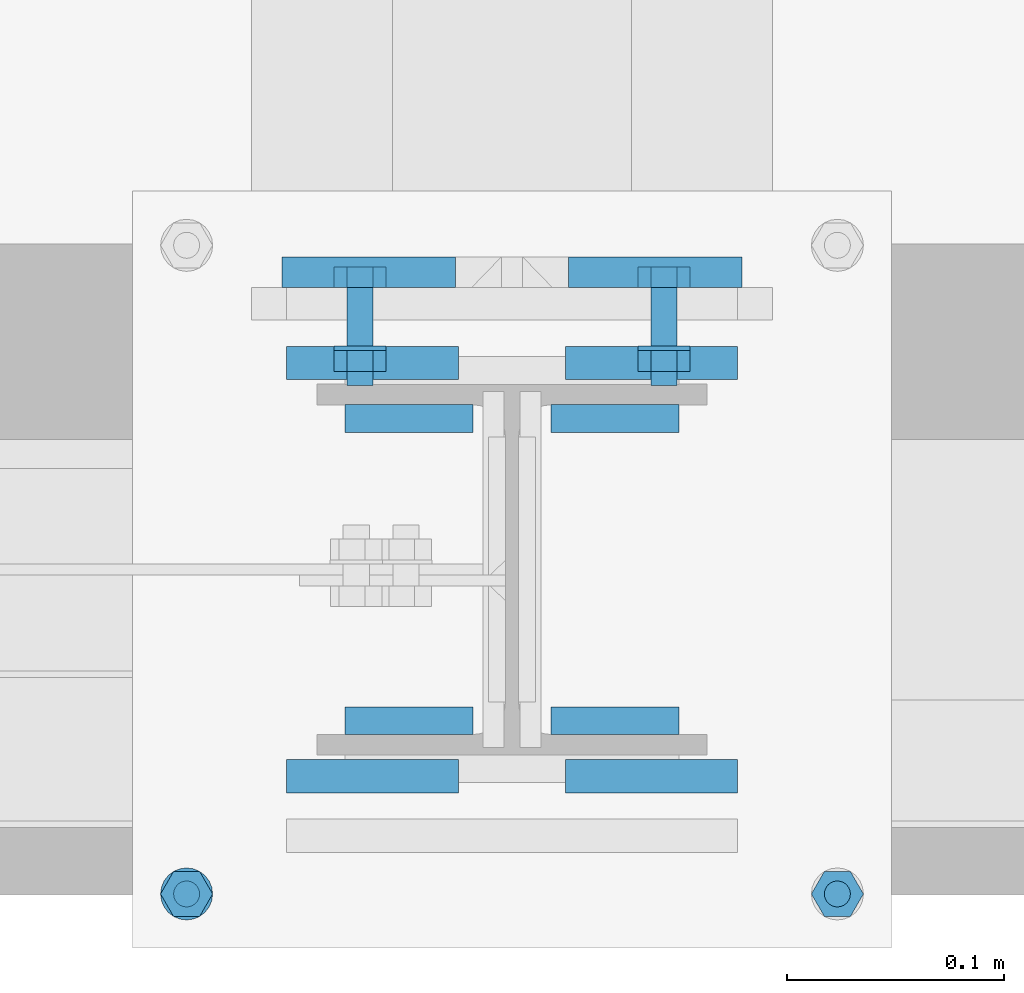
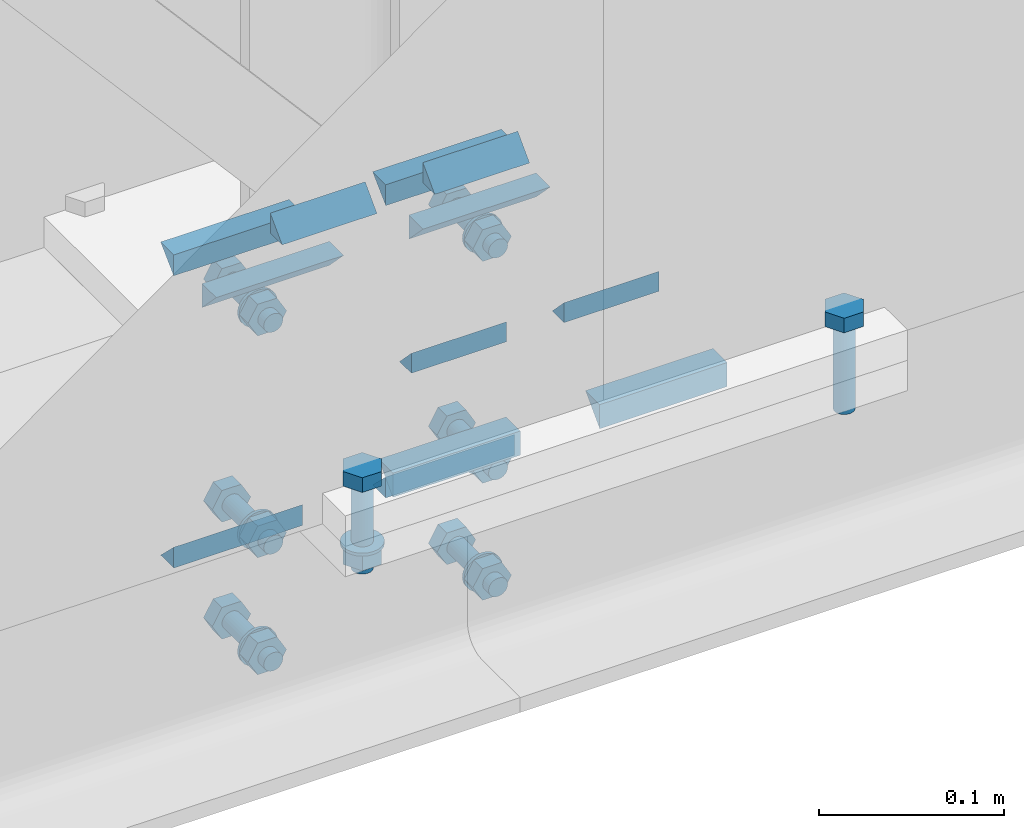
# One storey, part 29 of 66: 30 mechanical fasteners, 20 fasteners.
"""IFC4 building model written with IfcOpenShell, lengths in metres."""

import ifcopenshell
import ifcopenshell.guid

model = None  # the IFC model being written
_history = None  # IfcOwnerHistory: only IFC2X3 demands one
_inside = {}  # id of a spatial element -> (the spatial element, [elements in it])
_under = {}  # id of a project, library or spatial element -> (it, [spatial elements below it])
_declared = {}  # id of a project -> (the project, [libraries it declares])
_typed = {}  # id of a type object -> (the type object, [elements of that type])
_made_of = {}  # id of a material, layer set ... -> (it, [elements and type objects made of it])


def new_model(schema):
    """Start an empty IFC model of exactly this schema.

    Asked for "IFC4X3", IfcOpenShell would pick the latest addendum, in which some entities
    have other attributes; the version numbers below select the first issue.
    IFC2X3 requires an IfcOwnerHistory on every rooted entity: one is made here for all.
    """
    global model, _history
    if schema == "IFC4X3":
        model = ifcopenshell.file(schema_version=(4, 3, 0, 0))
    else:
        model = ifcopenshell.file(schema=schema)
    _inside.clear()
    _under.clear()
    _declared.clear()
    _typed.clear()
    _made_of.clear()
    _history = None
    if model.schema == "IFC2X3":
        org = make("IfcOrganization", Name="unknown")
        user = make(
            "IfcPersonAndOrganization",
            ThePerson=make("IfcPerson", FamilyName="unknown"),
            TheOrganization=org,
        )
        app = make(
            "IfcApplication",
            ApplicationDeveloper=org,
            Version="unknown",
            ApplicationFullName="unknown",
            ApplicationIdentifier="unknown",
        )
        _history = make(
            "IfcOwnerHistory",
            OwningUser=user,
            OwningApplication=app,
            ChangeAction="ADDED",
            CreationDate=0,
        )
    return model


def make(cls, **values):
    """One entity of the class cls with the attributes given. An attribute that is None is left unset."""
    return model.create_entity(
        cls, **{name: value for name, value in values.items() if value is not None}
    )


def rooted(cls, **values):
    """An entity with a GlobalId (a new one), such as an element, a storey or a relation."""
    return make(cls, GlobalId=ifcopenshell.guid.new(), OwnerHistory=_history, **values)


def si_unit(unit_type, name, prefix=None):
    """IfcSIUnit, for example si_unit("LENGTHUNIT", "METRE", prefix="MILLI")."""
    return make("IfcSIUnit", UnitType=unit_type, Prefix=prefix, Name=name)


def assignment(units):
    """IfcUnitAssignment: the units of a project."""
    return None if units is None else make("IfcUnitAssignment", Units=units)


def point(xyz):
    """IfcCartesianPoint."""
    return None if xyz is None else make("IfcCartesianPoint", Coordinates=xyz)


def direction(xyz):
    """IfcDirection."""
    return None if xyz is None else make("IfcDirection", DirectionRatios=xyz)


def frame(location, z_axis=None, x_axis=None):
    """IfcAxis2Placement3D, a coordinate frame: its origin and axes. An axis left out is left unset."""
    return make(
        "IfcAxis2Placement3D",
        Location=point(location),
        Axis=direction(z_axis),
        RefDirection=direction(x_axis),
    )


def origin_with_axes():
    """The frame at (0, 0, 0) with the z axis (0, 0, 1) and the x axis (1, 0, 0) written out."""
    return frame((0.0, 0.0, 0.0), z_axis=(0.0, 0.0, 1.0), x_axis=(1.0, 0.0, 0.0))


def place(relative_to, where):
    """IfcLocalPlacement: puts the frame where relative to a parent placement (None: the world)."""
    return make(
        "IfcLocalPlacement", PlacementRelTo=relative_to, RelativePlacement=where
    )


def context(
    kind, dimensions, precision=None, world=None, true_north=None, identifier=None
):
    """IfcGeometricRepresentationContext, for example the 3D "Model" context."""
    return make(
        "IfcGeometricRepresentationContext",
        ContextIdentifier=identifier,
        ContextType=kind,
        CoordinateSpaceDimension=dimensions,
        Precision=precision,
        WorldCoordinateSystem=world,
        TrueNorth=true_north,
    )


def project(units=None, contexts=None):
    """IfcProject with its units and contexts."""
    return rooted(
        "IfcProject",
        Name="project",
        RepresentationContexts=contexts,
        UnitsInContext=assignment(units),
    )


def spatial(cls, under=None, at=None, **own):
    """A site, building, storey or space (cls), placed at a placement, below another one or the project."""
    s = rooted(cls, ObjectPlacement=at, **own)
    if under is not None:
        _under.setdefault(under.id(), (under, []))[1].append(s)
    return s


def polyline(points):
    """IfcPolyline through the points."""
    return make("IfcPolyline", Points=[point(p) for p in points])


def outline(outer, holes=None, kind="AREA"):
    """IfcArbitraryClosedProfileDef: a profile drawn as a closed curve; with holes, ...WithVoids."""
    if holes is None:
        return make("IfcArbitraryClosedProfileDef", ProfileType=kind, OuterCurve=outer)
    return make(
        "IfcArbitraryProfileDefWithVoids",
        ProfileType=kind,
        OuterCurve=outer,
        InnerCurves=holes,
    )


def extrude(swept, where, along, depth):
    """IfcExtrudedAreaSolid: the profile swept, set in the frame where, extruded along a direction by depth."""
    return make(
        "IfcExtrudedAreaSolid",
        SweptArea=swept,
        Position=where,
        ExtrudedDirection=direction(along),
        Depth=depth,
    )


def shape(context_of_items, identifier, shape_type, items):
    """IfcShapeRepresentation: the items that make up one representation, for example the "Body"."""
    return make(
        "IfcShapeRepresentation",
        ContextOfItems=context_of_items,
        RepresentationIdentifier=identifier,
        RepresentationType=shape_type,
        Items=items,
    )


def made_of(thing, what):
    """Note that an element or type object is made of a material, layer set ...; save() writes the relation."""
    if what is not None:
        _made_of.setdefault(what.id(), (what, []))[1].append(thing)
    return thing


def type_object(cls, material=None, **own):
    """A type object (cls), such as IfcWallType, which elements share."""
    return made_of(rooted(cls, **own), material)


def element(
    cls,
    number,
    at=None,
    inside=None,
    cuts=None,
    type_object=None,
    material=None,
    context=None,
    identifier="Body",
    shape_type=None,
    held_by="IfcProductDefinitionShape",
    body=None,
    shapes=None,
    **own,
):
    """One element of the class cls, such as IfcWall. Its Tag is "e" and its number.

    at: its placement. inside: the storey or other place that contains it. cuts: it is an
    opening in that element (IfcRelVoidsElement). A single representation is given by context,
    identifier, shape_type and body (its items); several are given by shapes. held_by: the class
    of the entity that holds the representations. save() writes the other relations.
    """
    e = rooted(cls, Tag="e%d" % number, ObjectPlacement=at, **own)
    if body is not None:
        shapes = [shape(context, identifier, shape_type, body)]
    if shapes is not None:
        e.Representation = make(held_by, Representations=shapes)
    if inside is not None:
        _inside.setdefault(inside.id(), (inside, []))[1].append(e)
    if cuts is not None:
        rooted(
            "IfcRelVoidsElement", RelatingBuildingElement=cuts, RelatedOpeningElement=e
        )
    if type_object is not None:
        _typed.setdefault(type_object.id(), (type_object, []))[1].append(e)
    return made_of(e, material)


def aggregate(whole, parts):
    """IfcRelAggregates: a whole, such as a stair, and the parts it consists of."""
    return rooted("IfcRelAggregates", RelatingObject=whole, RelatedObjects=parts)


def save(model, path):
    """Write the relations noted so far, then the file.

    IfcRelAggregates (storeys below a building ...), IfcRelContainedInSpatialStructure (elements
    in a storey), IfcRelDefinesByType, IfcRelAssociatesMaterial and IfcRelDeclares: one each for
    every whole, place, type object, material and project.
    """
    for whole, parts in _under.values():
        aggregate(whole, parts)
    for where, things in _inside.values():
        rooted(
            "IfcRelContainedInSpatialStructure",
            RelatedElements=things,
            RelatingStructure=where,
        )
    for kind, things in _typed.values():
        rooted("IfcRelDefinesByType", RelatedObjects=things, RelatingType=kind)
    for what, things in _made_of.values():
        rooted("IfcRelAssociatesMaterial", RelatedObjects=things, RelatingMaterial=what)
    for by, libraries in _declared.values():
        rooted("IfcRelDeclares", RelatingContext=by, RelatedDefinitions=libraries)
    model.write(path)


model = new_model("IFC4")

# Units and contexts
model_context = context("Model", 3, precision=1e-05, world=origin_with_axes())
ifc_project = project(units=[si_unit("LENGTHUNIT", "METRE"), si_unit("AREAUNIT", "SQUARE_METRE"), si_unit("VOLUMEUNIT", "CUBIC_METRE"), si_unit("MASSUNIT", "GRAM", prefix="KILO"), si_unit("TIMEUNIT", "SECOND"), si_unit("PLANEANGLEUNIT", "RADIAN"), si_unit("SOLIDANGLEUNIT", "STERADIAN"), si_unit("THERMODYNAMICTEMPERATUREUNIT", "DEGREE_CELSIUS")], contexts=[model_context])

# Site, building, storey
placement_1 = place(None, origin_with_axes())
site = spatial("IfcSite", under=ifc_project, at=placement_1, Name="Italia", CompositionType="ELEMENT")
building = spatial("IfcBuilding", under=site, at=placement_1, Name="Uffici", CompositionType="ELEMENT")
storey_placement = place(None, frame((0.0, 0.0, 3.299999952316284), z_axis=(0.0, 0.0, 1.0), x_axis=(1.0, 0.0, 0.0)))
storey = spatial("IfcBuildingStorey", under=building, at=storey_placement, Name="Storey 1", CompositionType="ELEMENT", Elevation=3.299999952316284)

# Fasteners
fastener_type_1 = type_object("IfcFastenerType", Name="Collegamenti 0101_-001 0102_-002 0103_-003 0104_-004", PredefinedType="WELD")
placement_2 = place(placement_1, origin_with_axes())
fastener_1_placement = place(placement_2, origin_with_axes())
element("IfcFastener", 1, at=fastener_1_placement, inside=storey, type_object=fastener_type_1, Name="Collegamenti 0101_-001 0102_-002 0103_-003 0104_-004", context=model_context, shape_type="SweptSolid", body=[
    extrude(outline(polyline([(0.0, 0.0), (-0.0141734, 0.0137482), (0.0, 0.0137482), (0.0, 0.0)])), frame((3.17905, 0.12995, 3.2693), z_axis=(-1.0, 0.0, 0.0), x_axis=(0.0, -1.0, 0.0)), (0.0, 0.0, 1.0), 0.0801001),
])
fastener_type_2 = type_object("IfcFastenerType", Name="Collegamenti 0101_-001 0102_-002 0103_-003 0104_-004", PredefinedType="WELD")
fastener_2_placement = place(placement_2, origin_with_axes())
element("IfcFastener", 2, at=fastener_2_placement, inside=storey, type_object=fastener_type_2, Name="Collegamenti 0101_-001 0102_-002 0103_-003 0104_-004", context=model_context, shape_type="SweptSolid", body=[
    extrude(outline(polyline([(0.0, 0.0), (0.0141734, -0.0137482), (0.0, -0.0137482), (0.0, 0.0)])), frame((3.09895, 0.12995, 3.0907), z_axis=(1.0, 0.0, 0.0), x_axis=(0.0, 1.0, 0.0)), (0.0, 0.0, 1.0), 0.0801001),
])
fastener_type_3 = type_object("IfcFastenerType", Name="Collegamenti 0101_-001 0102_-002 0103_-003 0104_-004", PredefinedType="WELD")
fastener_3_placement = place(placement_2, origin_with_axes())
element("IfcFastener", 3, at=fastener_3_placement, inside=storey, type_object=fastener_type_3, Name="Collegamenti 0101_-001 0102_-002 0103_-003 0104_-004", context=model_context, shape_type="SweptSolid", body=[
    extrude(outline(polyline([(0.0, 0.0), (0.0141734, -0.0137482), (0.0, -0.0137482), (0.0, 0.0)])), frame((3.23095, 0.12995, 3.0907), z_axis=(1.0, 0.0, 0.0), x_axis=(0.0, 1.0, 0.0)), (0.0, 0.0, 1.0), 0.0801001),
])
fastener_type_4 = type_object("IfcFastenerType", Name="Collegamenti 0101_-001 0102_-002 0103_-003 0104_-004", PredefinedType="WELD")
fastener_4_placement = place(placement_2, origin_with_axes())
element("IfcFastener", 4, at=fastener_4_placement, inside=storey, type_object=fastener_type_4, Name="Collegamenti 0101_-001 0102_-002 0103_-003 0104_-004", context=model_context, shape_type="SweptSolid", body=[
    extrude(outline(polyline([(0.0, 0.0), (-0.0141733, 0.0137482), (0.0, 0.0137482), (0.0, 0.0)])), frame((3.31105, 0.12995, 3.2693), z_axis=(-1.0, 0.0, 0.0), x_axis=(0.0, -1.0, 0.0)), (0.0, 0.0, 1.0), 0.0801001),
])
fastener_type_5 = type_object("IfcFastenerType", Name="Collegamenti 0101_-001 0102_-002 0103_-003 0104_-004", PredefinedType="WELD")
fastener_5_placement = place(placement_2, origin_with_axes())
element("IfcFastener", 5, at=fastener_5_placement, inside=storey, type_object=fastener_type_5, Name="Collegamenti 0101_-001 0102_-002 0103_-003 0104_-004", context=model_context, shape_type="SweptSolid", body=[
    extrude(outline(polyline([(0.0, 0.0), (-0.0141734, 0.0137482), (0.0, 0.0137482), (0.0, 0.0)])), frame((3.17905, 0.12995, 3.2693), z_axis=(-1.0, 0.0, 0.0), x_axis=(0.0, -1.0, 0.0)), (0.0, 0.0, 1.0), 0.0801001),
])
fastener_type_6 = type_object("IfcFastenerType", Name="Collegamenti 0101_-001 0102_-002 0103_-003 0104_-004", PredefinedType="WELD")
fastener_6_placement = place(placement_2, origin_with_axes())
element("IfcFastener", 6, at=fastener_6_placement, inside=storey, type_object=fastener_type_6, Name="Collegamenti 0101_-001 0102_-002 0103_-003 0104_-004", context=model_context, shape_type="SweptSolid", body=[
    extrude(outline(polyline([(0.0, 0.0), (0.0141734, -0.0137482), (0.0, -0.0137482), (0.0, 0.0)])), frame((3.09895, 0.12995, 3.0907), z_axis=(1.0, 0.0, 0.0), x_axis=(0.0, 1.0, 0.0)), (0.0, 0.0, 1.0), 0.0801001),
])
fastener_type_7 = type_object("IfcFastenerType", Name="Collegamenti 0101_-001 0102_-002 0103_-003 0104_-004", PredefinedType="WELD")
fastener_7_placement = place(placement_2, origin_with_axes())
element("IfcFastener", 7, at=fastener_7_placement, inside=storey, type_object=fastener_type_7, Name="Collegamenti 0101_-001 0102_-002 0103_-003 0104_-004", context=model_context, shape_type="SweptSolid", body=[
    extrude(outline(polyline([(0.0, 0.0), (0.0141734, -0.0137482), (0.0, -0.0137482), (0.0, 0.0)])), frame((3.23095, 0.12995, 3.0907), z_axis=(1.0, 0.0, 0.0), x_axis=(0.0, 1.0, 0.0)), (0.0, 0.0, 1.0), 0.0801001),
])
fastener_type_8 = type_object("IfcFastenerType", Name="Collegamenti 0101_-001 0102_-002 0103_-003 0104_-004", PredefinedType="WELD")
fastener_8_placement = place(placement_2, origin_with_axes())
element("IfcFastener", 8, at=fastener_8_placement, inside=storey, type_object=fastener_type_8, Name="Collegamenti 0101_-001 0102_-002 0103_-003 0104_-004", context=model_context, shape_type="SweptSolid", body=[
    extrude(outline(polyline([(0.0, 0.0), (-0.0141733, 0.0137482), (0.0, 0.0137482), (0.0, 0.0)])), frame((3.31105, 0.12995, 3.2693), z_axis=(-1.0, 0.0, 0.0), x_axis=(0.0, -1.0, 0.0)), (0.0, 0.0, 1.0), 0.0801001),
])

# Mechanical fasteners
mechanical_fastener_type_1 = type_object("IfcMechanicalFastenerType", Name="Collegamenti 0101_-001 0102_-002 0103_-003 0104_-004", PredefinedType="BOLT")
mechanical_fastener_1_placement = place(placement_2, origin_with_axes())
element("IfcMechanicalFastener", 9, at=mechanical_fastener_1_placement, inside=storey, type_object=mechanical_fastener_type_1, Name="Collegamenti 0101_-001 0102_-002 0103_-003 0104_-004", NominalDiameter=0.0119998, context=model_context, shape_type="SweptSolid", body=[
    extrude(outline(polyline([(0.0, 0.0), (-0.0120001, 0.0), (-0.0180001, 0.0103924), (-0.0120001, 0.0207846), (0.0, 0.0207846), (0.0059998, 0.0103924), (0.0, 0.0)])), frame((3.269, 0.13, 3.09661), z_axis=(0.0, 1.0, 0.0), x_axis=(-1.0, 0.0, 0.0)), (0.0, 0.0, 1.0), 0.0096),
])
mechanical_fastener_type_2 = type_object("IfcMechanicalFastenerType", Name="Collegamenti 0101_-001 0102_-002 0103_-003 0104_-004", PredefinedType="BOLT")
mechanical_fastener_2_placement = place(placement_2, origin_with_axes())
element("IfcMechanicalFastener", 10, at=mechanical_fastener_2_placement, inside=storey, type_object=mechanical_fastener_type_2, Name="Collegamenti 0101_-001 0102_-002 0103_-003 0104_-004", NominalDiameter=0.012, context=model_context, shape_type="SweptSolid", body=[
    extrude(outline(polyline([(0.0, 0.0), (-0.000204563, -0.00155282), (-0.000803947, -0.00300002), (-0.00175738, -0.00424266), (-0.00300002, -0.00519609), (-0.00444722, -0.00579548), (-0.00600004, -0.00600004), (-0.00755286, -0.00579548), (-0.00900006, -0.00519609), (-0.0102427, -0.00424266), (-0.0111961, -0.00300002), (-0.0117955, -0.00155282), (-0.0120001, 0.0), (-0.0117955, 0.00155282), (-0.0111961, 0.00300002), (-0.0102427, 0.00424266), (-0.00900006, 0.00519609), (-0.00755286, 0.00579548), (-0.00600004, 0.00600004), (-0.00444722, 0.00579548), (-0.00300002, 0.00519609), (-0.00175738, 0.00424266), (-0.000803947, 0.00300002), (-0.000204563, 0.00155282), (0.0, 0.0)])), frame((3.269, 0.085, 3.107), z_axis=(0.0, 1.0, 0.0), x_axis=(-1.0, 0.0, 0.0)), (0.0, 0.0, 1.0), 0.045),
])
mechanical_fastener_type_3 = type_object("IfcMechanicalFastenerType", Name="Collegamenti 0101_-001 0102_-002 0103_-003 0104_-004", PredefinedType="BOLT")
mechanical_fastener_3_placement = place(placement_2, origin_with_axes())
element("IfcMechanicalFastener", 11, at=mechanical_fastener_3_placement, inside=storey, type_object=mechanical_fastener_type_3, Name="Collegamenti 0101_-001 0102_-002 0103_-003 0104_-004", NominalDiameter=0.0119998, context=model_context, shape_type="SweptSolid", body=[
    extrude(outline(polyline([(0.0, 0.0), (-0.0120001, 0.0), (-0.0180001, 0.0103924), (-0.0120001, 0.0207846), (0.0, 0.0207846), (0.0059998, 0.0103924), (0.0, 0.0)])), frame((3.269, 0.0914, 3.09661), z_axis=(0.0, 1.0, 0.0), x_axis=(-1.0, 0.0, 0.0)), (0.0, 0.0, 1.0), 0.0096),
])
mechanical_fastener_type_4 = type_object("IfcMechanicalFastenerType", Name="Collegamenti 0101_-001 0102_-002 0103_-003 0104_-004", PredefinedType="BOLT")
mechanical_fastener_4_placement = place(placement_2, origin_with_axes())
element("IfcMechanicalFastener", 12, at=mechanical_fastener_4_placement, inside=storey, type_object=mechanical_fastener_type_4, Name="Collegamenti 0101_-001 0102_-002 0103_-003 0104_-004", NominalDiameter=0.024, context=model_context, shape_type="SweptSolid", body=[
    extrude(outline(polyline([(0.0, 0.0), (-0.000408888, -0.00310588), (-0.00160789, -0.00600004), (-0.00351477, -0.00848532), (-0.00600004, -0.0103922), (-0.00889421, -0.0115912), (-0.0120001, -0.0120001), (-0.015106, -0.0115912), (-0.0180001, -0.0103922), (-0.0204854, -0.00848532), (-0.0223923, -0.00600004), (-0.0235913, -0.00310588), (-0.0240002, 0.0), (-0.0235913, 0.00310588), (-0.0223923, 0.00600004), (-0.0204854, 0.00848532), (-0.0180001, 0.0103922), (-0.015106, 0.0115912), (-0.0120001, 0.0120001), (-0.00889421, 0.0115912), (-0.00600004, 0.0103922), (-0.00351477, 0.00848532), (-0.00160789, 0.00600004), (-0.000408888, 0.00310588), (0.0, 0.0)])), frame((3.263, 0.101, 3.107), z_axis=(0.0, 1.0, 0.0), x_axis=(-1.0, 0.0, 0.0)), (0.0, 0.0, 1.0), 0.002),
])
mechanical_fastener_type_5 = type_object("IfcMechanicalFastenerType", Name="Collegamenti 0101_-001 0102_-002 0103_-003 0104_-004", PredefinedType="BOLT")
mechanical_fastener_5_placement = place(placement_2, origin_with_axes())
element("IfcMechanicalFastener", 13, at=mechanical_fastener_5_placement, inside=storey, type_object=mechanical_fastener_type_5, Name="Collegamenti 0101_-001 0102_-002 0103_-003 0104_-004", NominalDiameter=0.0119998, context=model_context, shape_type="SweptSolid", body=[
    extrude(outline(polyline([(0.0, 0.0), (-0.0120001, 0.0), (-0.0179999, 0.0103924), (-0.0120001, 0.0207846), (0.0, 0.0207846), (0.00600004, 0.0103924), (0.0, 0.0)])), frame((3.129, 0.13, 3.09661), z_axis=(0.0, 1.0, 0.0), x_axis=(-1.0, 0.0, 0.0)), (0.0, 0.0, 1.0), 0.0096),
])
mechanical_fastener_type_6 = type_object("IfcMechanicalFastenerType", Name="Collegamenti 0101_-001 0102_-002 0103_-003 0104_-004", PredefinedType="BOLT")
mechanical_fastener_6_placement = place(placement_2, origin_with_axes())
element("IfcMechanicalFastener", 14, at=mechanical_fastener_6_placement, inside=storey, type_object=mechanical_fastener_type_6, Name="Collegamenti 0101_-001 0102_-002 0103_-003 0104_-004", NominalDiameter=0.012, context=model_context, shape_type="SweptSolid", body=[
    extrude(outline(polyline([(0.0, 0.0), (-0.000204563, -0.00155282), (-0.000803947, -0.00300002), (-0.00175738, -0.00424266), (-0.00300002, -0.00519609), (-0.00444722, -0.00579548), (-0.00600004, -0.00600004), (-0.00755286, -0.00579548), (-0.00900006, -0.00519609), (-0.0102427, -0.00424266), (-0.0111961, -0.00300002), (-0.0117955, -0.00155282), (-0.0120001, 0.0), (-0.0117955, 0.00155282), (-0.0111961, 0.00300002), (-0.0102427, 0.00424266), (-0.00900006, 0.00519609), (-0.00755286, 0.00579548), (-0.00600004, 0.00600004), (-0.00444722, 0.00579548), (-0.00300002, 0.00519609), (-0.00175738, 0.00424266), (-0.000803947, 0.00300002), (-0.000204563, 0.00155282), (0.0, 0.0)])), frame((3.129, 0.085, 3.107), z_axis=(0.0, 1.0, 0.0), x_axis=(-1.0, 0.0, 0.0)), (0.0, 0.0, 1.0), 0.045),
])
mechanical_fastener_type_7 = type_object("IfcMechanicalFastenerType", Name="Collegamenti 0101_-001 0102_-002 0103_-003 0104_-004", PredefinedType="BOLT")
mechanical_fastener_7_placement = place(placement_2, origin_with_axes())
element("IfcMechanicalFastener", 15, at=mechanical_fastener_7_placement, inside=storey, type_object=mechanical_fastener_type_7, Name="Collegamenti 0101_-001 0102_-002 0103_-003 0104_-004", NominalDiameter=0.0119998, context=model_context, shape_type="SweptSolid", body=[
    extrude(outline(polyline([(0.0, 0.0), (-0.0120001, 0.0), (-0.0179999, 0.0103924), (-0.0120001, 0.0207846), (0.0, 0.0207846), (0.00600004, 0.0103924), (0.0, 0.0)])), frame((3.129, 0.0914, 3.09661), z_axis=(0.0, 1.0, 0.0), x_axis=(-1.0, 0.0, 0.0)), (0.0, 0.0, 1.0), 0.00960001),
])
mechanical_fastener_type_8 = type_object("IfcMechanicalFastenerType", Name="Collegamenti 0101_-001 0102_-002 0103_-003 0104_-004", PredefinedType="BOLT")
mechanical_fastener_8_placement = place(placement_2, origin_with_axes())
element("IfcMechanicalFastener", 16, at=mechanical_fastener_8_placement, inside=storey, type_object=mechanical_fastener_type_8, Name="Collegamenti 0101_-001 0102_-002 0103_-003 0104_-004", NominalDiameter=0.024, context=model_context, shape_type="SweptSolid", body=[
    extrude(outline(polyline([(0.0, 0.0), (-0.000408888, -0.00310588), (-0.00160789, -0.00600004), (-0.00351477, -0.00848532), (-0.00600004, -0.0103922), (-0.00889421, -0.0115912), (-0.0120001, -0.0120001), (-0.015106, -0.0115912), (-0.0180001, -0.0103922), (-0.0204854, -0.00848532), (-0.0223923, -0.00600004), (-0.0235913, -0.00310588), (-0.0240002, 0.0), (-0.0235913, 0.00310588), (-0.0223923, 0.00600004), (-0.0204854, 0.00848532), (-0.0180001, 0.0103922), (-0.015106, 0.0115912), (-0.0120001, 0.0120001), (-0.00889421, 0.0115912), (-0.00600004, 0.0103922), (-0.00351477, 0.00848532), (-0.00160789, 0.00600004), (-0.000408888, 0.00310588), (0.0, 0.0)])), frame((3.123, 0.101, 3.107), z_axis=(0.0, 1.0, 0.0), x_axis=(-1.0, 0.0, 0.0)), (0.0, 0.0, 1.0), 0.002),
])
mechanical_fastener_type_9 = type_object("IfcMechanicalFastenerType", Name="Collegamenti 0101_-001 0102_-002 0103_-003 0104_-004", PredefinedType="BOLT")
mechanical_fastener_9_placement = place(placement_2, origin_with_axes())
element("IfcMechanicalFastener", 17, at=mechanical_fastener_9_placement, inside=storey, type_object=mechanical_fastener_type_9, Name="Collegamenti 0101_-001 0102_-002 0103_-003 0104_-004", NominalDiameter=0.0119998, context=model_context, shape_type="SweptSolid", body=[
    extrude(outline(polyline([(0.0, 0.0), (-0.0120001, 0.0), (-0.0180001, 0.0103922), (-0.0120001, 0.0207846), (0.0, 0.0207846), (0.0059998, 0.0103922), (0.0, 0.0)])), frame((3.269, 0.13, 3.24261), z_axis=(0.0, 1.0, 0.0), x_axis=(-1.0, 0.0, 0.0)), (0.0, 0.0, 1.0), 0.0096),
])
mechanical_fastener_type_10 = type_object("IfcMechanicalFastenerType", Name="Collegamenti 0101_-001 0102_-002 0103_-003 0104_-004", PredefinedType="BOLT")
mechanical_fastener_10_placement = place(placement_2, origin_with_axes())
element("IfcMechanicalFastener", 18, at=mechanical_fastener_10_placement, inside=storey, type_object=mechanical_fastener_type_10, Name="Collegamenti 0101_-001 0102_-002 0103_-003 0104_-004", NominalDiameter=0.012, context=model_context, shape_type="SweptSolid", body=[
    extrude(outline(polyline([(0.0, 0.0), (-0.000204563, -0.00155282), (-0.000803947, -0.00300002), (-0.00175738, -0.00424266), (-0.00300002, -0.00519609), (-0.00444722, -0.00579548), (-0.00600004, -0.00600004), (-0.00755286, -0.00579548), (-0.00900006, -0.00519609), (-0.0102427, -0.00424266), (-0.0111961, -0.00300002), (-0.0117955, -0.00155282), (-0.0120001, 0.0), (-0.0117955, 0.00155282), (-0.0111961, 0.00300002), (-0.0102427, 0.00424266), (-0.00900006, 0.00519609), (-0.00755286, 0.00579548), (-0.00600004, 0.00600004), (-0.00444722, 0.00579548), (-0.00300002, 0.00519609), (-0.00175738, 0.00424266), (-0.000803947, 0.00300002), (-0.000204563, 0.00155282), (0.0, 0.0)])), frame((3.269, 0.085, 3.253), z_axis=(0.0, 1.0, 0.0), x_axis=(-1.0, 0.0, 0.0)), (0.0, 0.0, 1.0), 0.045),
])
mechanical_fastener_type_11 = type_object("IfcMechanicalFastenerType", Name="Collegamenti 0101_-001 0102_-002 0103_-003 0104_-004", PredefinedType="BOLT")
mechanical_fastener_11_placement = place(placement_2, origin_with_axes())
element("IfcMechanicalFastener", 19, at=mechanical_fastener_11_placement, inside=storey, type_object=mechanical_fastener_type_11, Name="Collegamenti 0101_-001 0102_-002 0103_-003 0104_-004", NominalDiameter=0.0119998, context=model_context, shape_type="SweptSolid", body=[
    extrude(outline(polyline([(0.0, 0.0), (-0.0120001, 0.0), (-0.0180001, 0.0103922), (-0.0120001, 0.0207846), (0.0, 0.0207846), (0.0059998, 0.0103922), (0.0, 0.0)])), frame((3.269, 0.0914, 3.24261), z_axis=(0.0, 1.0, 0.0), x_axis=(-1.0, 0.0, 0.0)), (0.0, 0.0, 1.0), 0.0096),
])
mechanical_fastener_type_12 = type_object("IfcMechanicalFastenerType", Name="Collegamenti 0101_-001 0102_-002 0103_-003 0104_-004", PredefinedType="BOLT")
mechanical_fastener_12_placement = place(placement_2, origin_with_axes())
element("IfcMechanicalFastener", 20, at=mechanical_fastener_12_placement, inside=storey, type_object=mechanical_fastener_type_12, Name="Collegamenti 0101_-001 0102_-002 0103_-003 0104_-004", NominalDiameter=0.024, context=model_context, shape_type="SweptSolid", body=[
    extrude(outline(polyline([(0.0, 0.0), (-0.000408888, -0.00310588), (-0.00160789, -0.00600004), (-0.00351477, -0.00848532), (-0.00600004, -0.0103922), (-0.00889421, -0.0115912), (-0.0120001, -0.0120001), (-0.015106, -0.0115912), (-0.0180001, -0.0103922), (-0.0204854, -0.00848532), (-0.0223923, -0.00600004), (-0.0235913, -0.00310588), (-0.0240002, 0.0), (-0.0235913, 0.00310588), (-0.0223923, 0.00600004), (-0.0204854, 0.00848532), (-0.0180001, 0.0103922), (-0.015106, 0.0115912), (-0.0120001, 0.0120001), (-0.00889421, 0.0115912), (-0.00600004, 0.0103922), (-0.00351477, 0.00848532), (-0.00160789, 0.00600004), (-0.000408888, 0.00310588), (0.0, 0.0)])), frame((3.263, 0.101, 3.253), z_axis=(0.0, 1.0, 0.0), x_axis=(-1.0, 0.0, 0.0)), (0.0, 0.0, 1.0), 0.002),
])
mechanical_fastener_type_13 = type_object("IfcMechanicalFastenerType", Name="Collegamenti 0101_-001 0102_-002 0103_-003 0104_-004", PredefinedType="BOLT")
mechanical_fastener_13_placement = place(placement_2, origin_with_axes())
element("IfcMechanicalFastener", 21, at=mechanical_fastener_13_placement, inside=storey, type_object=mechanical_fastener_type_13, Name="Collegamenti 0101_-001 0102_-002 0103_-003 0104_-004", NominalDiameter=0.0119998, context=model_context, shape_type="SweptSolid", body=[
    extrude(outline(polyline([(0.0, 0.0), (-0.0120001, 0.0), (-0.0179999, 0.0103922), (-0.0120001, 0.0207846), (0.0, 0.0207846), (0.00600004, 0.0103922), (0.0, 0.0)])), frame((3.129, 0.13, 3.24261), z_axis=(0.0, 1.0, 0.0), x_axis=(-1.0, 0.0, 0.0)), (0.0, 0.0, 1.0), 0.0096),
])
mechanical_fastener_type_14 = type_object("IfcMechanicalFastenerType", Name="Collegamenti 0101_-001 0102_-002 0103_-003 0104_-004", PredefinedType="BOLT")
mechanical_fastener_14_placement = place(placement_2, origin_with_axes())
element("IfcMechanicalFastener", 22, at=mechanical_fastener_14_placement, inside=storey, type_object=mechanical_fastener_type_14, Name="Collegamenti 0101_-001 0102_-002 0103_-003 0104_-004", NominalDiameter=0.012, context=model_context, shape_type="SweptSolid", body=[
    extrude(outline(polyline([(0.0, 0.0), (-0.000204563, -0.00155282), (-0.000803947, -0.00300002), (-0.00175738, -0.00424266), (-0.00300002, -0.00519609), (-0.00444722, -0.00579548), (-0.00600004, -0.00600004), (-0.00755286, -0.00579548), (-0.00900006, -0.00519609), (-0.0102427, -0.00424266), (-0.0111961, -0.00300002), (-0.0117955, -0.00155282), (-0.0120001, 0.0), (-0.0117955, 0.00155282), (-0.0111961, 0.00300002), (-0.0102427, 0.00424266), (-0.00900006, 0.00519609), (-0.00755286, 0.00579548), (-0.00600004, 0.00600004), (-0.00444722, 0.00579548), (-0.00300002, 0.00519609), (-0.00175738, 0.00424266), (-0.000803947, 0.00300002), (-0.000204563, 0.00155282), (0.0, 0.0)])), frame((3.129, 0.085, 3.253), z_axis=(0.0, 1.0, 0.0), x_axis=(-1.0, 0.0, 0.0)), (0.0, 0.0, 1.0), 0.045),
])
mechanical_fastener_type_15 = type_object("IfcMechanicalFastenerType", Name="Collegamenti 0101_-001 0102_-002 0103_-003 0104_-004", PredefinedType="BOLT")
mechanical_fastener_15_placement = place(placement_2, origin_with_axes())
element("IfcMechanicalFastener", 23, at=mechanical_fastener_15_placement, inside=storey, type_object=mechanical_fastener_type_15, Name="Collegamenti 0101_-001 0102_-002 0103_-003 0104_-004", NominalDiameter=0.0119998, context=model_context, shape_type="SweptSolid", body=[
    extrude(outline(polyline([(0.0, 0.0), (-0.0120001, 0.0), (-0.0179999, 0.0103922), (-0.0120001, 0.0207846), (0.0, 0.0207846), (0.00600004, 0.0103922), (0.0, 0.0)])), frame((3.129, 0.0914, 3.24261), z_axis=(0.0, 1.0, 0.0), x_axis=(-1.0, 0.0, 0.0)), (0.0, 0.0, 1.0), 0.00960001),
])
mechanical_fastener_type_16 = type_object("IfcMechanicalFastenerType", Name="Collegamenti 0101_-001 0102_-002 0103_-003 0104_-004", PredefinedType="BOLT")
mechanical_fastener_16_placement = place(placement_2, origin_with_axes())
element("IfcMechanicalFastener", 24, at=mechanical_fastener_16_placement, inside=storey, type_object=mechanical_fastener_type_16, Name="Collegamenti 0101_-001 0102_-002 0103_-003 0104_-004", NominalDiameter=0.024, context=model_context, shape_type="SweptSolid", body=[
    extrude(outline(polyline([(0.0, 0.0), (-0.000408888, -0.00310588), (-0.00160789, -0.00600004), (-0.00351477, -0.00848532), (-0.00600004, -0.0103922), (-0.00889421, -0.0115912), (-0.0120001, -0.0120001), (-0.015106, -0.0115912), (-0.0180001, -0.0103922), (-0.0204854, -0.00848532), (-0.0223923, -0.00600004), (-0.0235913, -0.00310588), (-0.0240002, 0.0), (-0.0235913, 0.00310588), (-0.0223923, 0.00600004), (-0.0204854, 0.00848532), (-0.0180001, 0.0103922), (-0.015106, 0.0115912), (-0.0120001, 0.0120001), (-0.00889421, 0.0115912), (-0.00600004, 0.0103922), (-0.00351477, 0.00848532), (-0.00160789, 0.00600004), (-0.000408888, 0.00310588), (0.0, 0.0)])), frame((3.123, 0.101, 3.253), z_axis=(0.0, 1.0, 0.0), x_axis=(-1.0, 0.0, 0.0)), (0.0, 0.0, 1.0), 0.002),
])
mechanical_fastener_type_17 = type_object("IfcMechanicalFastenerType", Name="Collegamenti 0101_-001 0102_-002 0103_-003 0104_-004", PredefinedType="BOLT")
mechanical_fastener_17_placement = place(placement_2, origin_with_axes())
element("IfcMechanicalFastener", 25, at=mechanical_fastener_17_placement, inside=storey, type_object=mechanical_fastener_type_17, Name="Collegamenti 0101_-001 0102_-002 0103_-003 0104_-004", NominalDiameter=0.0119998, context=model_context, shape_type="SweptSolid", body=[
    extrude(outline(polyline([(0.0, 0.0), (-0.0120001, 0.0), (-0.0180001, 0.0103922), (-0.0120001, 0.0207846), (0.0, 0.0207846), (0.0059998, 0.0103922), (0.0, 0.0)])), frame((3.269, 0.13, 3.01961), z_axis=(0.0, 1.0, 0.0), x_axis=(-1.0, 0.0, 0.0)), (0.0, 0.0, 1.0), 0.0096),
])
mechanical_fastener_type_18 = type_object("IfcMechanicalFastenerType", Name="Collegamenti 0101_-001 0102_-002 0103_-003 0104_-004", PredefinedType="BOLT")
mechanical_fastener_18_placement = place(placement_2, origin_with_axes())
element("IfcMechanicalFastener", 26, at=mechanical_fastener_18_placement, inside=storey, type_object=mechanical_fastener_type_18, Name="Collegamenti 0101_-001 0102_-002 0103_-003 0104_-004", NominalDiameter=0.012, context=model_context, shape_type="SweptSolid", body=[
    extrude(outline(polyline([(0.0, 0.0), (-0.000204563, -0.00155282), (-0.000803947, -0.00300002), (-0.00175738, -0.00424266), (-0.00300002, -0.00519609), (-0.00444722, -0.00579548), (-0.00600004, -0.00600004), (-0.00755286, -0.00579548), (-0.00900006, -0.00519609), (-0.0102427, -0.00424266), (-0.0111961, -0.00300002), (-0.0117955, -0.00155282), (-0.0120001, 0.0), (-0.0117955, 0.00155282), (-0.0111961, 0.00300002), (-0.0102427, 0.00424266), (-0.00900006, 0.00519609), (-0.00755286, 0.00579548), (-0.00600004, 0.00600004), (-0.00444722, 0.00579548), (-0.00300002, 0.00519609), (-0.00175738, 0.00424266), (-0.000803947, 0.00300002), (-0.000204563, 0.00155282), (0.0, 0.0)])), frame((3.269, 0.085, 3.03), z_axis=(0.0, 1.0, 0.0), x_axis=(-1.0, 0.0, 0.0)), (0.0, 0.0, 1.0), 0.045),
])
mechanical_fastener_type_19 = type_object("IfcMechanicalFastenerType", Name="Collegamenti 0101_-001 0102_-002 0103_-003 0104_-004", PredefinedType="BOLT")
mechanical_fastener_19_placement = place(placement_2, origin_with_axes())
element("IfcMechanicalFastener", 27, at=mechanical_fastener_19_placement, inside=storey, type_object=mechanical_fastener_type_19, Name="Collegamenti 0101_-001 0102_-002 0103_-003 0104_-004", NominalDiameter=0.0119998, context=model_context, shape_type="SweptSolid", body=[
    extrude(outline(polyline([(0.0, 0.0), (-0.0120001, 0.0), (-0.0180001, 0.0103922), (-0.0120001, 0.0207846), (0.0, 0.0207846), (0.0059998, 0.0103922), (0.0, 0.0)])), frame((3.269, 0.0914, 3.01961), z_axis=(0.0, 1.0, 0.0), x_axis=(-1.0, 0.0, 0.0)), (0.0, 0.0, 1.0), 0.0096),
])
mechanical_fastener_type_20 = type_object("IfcMechanicalFastenerType", Name="Collegamenti 0101_-001 0102_-002 0103_-003 0104_-004", PredefinedType="BOLT")
mechanical_fastener_20_placement = place(placement_2, origin_with_axes())
element("IfcMechanicalFastener", 28, at=mechanical_fastener_20_placement, inside=storey, type_object=mechanical_fastener_type_20, Name="Collegamenti 0101_-001 0102_-002 0103_-003 0104_-004", NominalDiameter=0.024, context=model_context, shape_type="SweptSolid", body=[
    extrude(outline(polyline([(0.0, 0.0), (-0.000408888, -0.00310588), (-0.00160789, -0.00600004), (-0.00351477, -0.00848532), (-0.00600004, -0.0103922), (-0.00889421, -0.0115912), (-0.0120001, -0.0120001), (-0.015106, -0.0115912), (-0.0180001, -0.0103922), (-0.0204854, -0.00848532), (-0.0223923, -0.00600004), (-0.0235913, -0.00310588), (-0.0240002, 0.0), (-0.0235913, 0.00310588), (-0.0223923, 0.00600004), (-0.0204854, 0.00848532), (-0.0180001, 0.0103922), (-0.015106, 0.0115912), (-0.0120001, 0.0120001), (-0.00889421, 0.0115912), (-0.00600004, 0.0103922), (-0.00351477, 0.00848532), (-0.00160789, 0.00600004), (-0.000408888, 0.00310588), (0.0, 0.0)])), frame((3.263, 0.101, 3.03), z_axis=(0.0, 1.0, 0.0), x_axis=(-1.0, 0.0, 0.0)), (0.0, 0.0, 1.0), 0.002),
])
mechanical_fastener_type_21 = type_object("IfcMechanicalFastenerType", Name="Collegamenti 0101_-001 0102_-002 0103_-003 0104_-004", PredefinedType="BOLT")
mechanical_fastener_21_placement = place(placement_2, origin_with_axes())
element("IfcMechanicalFastener", 29, at=mechanical_fastener_21_placement, inside=storey, type_object=mechanical_fastener_type_21, Name="Collegamenti 0101_-001 0102_-002 0103_-003 0104_-004", NominalDiameter=0.0119998, context=model_context, shape_type="SweptSolid", body=[
    extrude(outline(polyline([(0.0, 0.0), (-0.0120001, 0.0), (-0.0179999, 0.0103922), (-0.0120001, 0.0207846), (0.0, 0.0207846), (0.00600004, 0.0103922), (0.0, 0.0)])), frame((3.129, 0.13, 3.01961), z_axis=(0.0, 1.0, 0.0), x_axis=(-1.0, 0.0, 0.0)), (0.0, 0.0, 1.0), 0.0096),
])
mechanical_fastener_type_22 = type_object("IfcMechanicalFastenerType", Name="Collegamenti 0101_-001 0102_-002 0103_-003 0104_-004", PredefinedType="BOLT")
mechanical_fastener_22_placement = place(placement_2, origin_with_axes())
element("IfcMechanicalFastener", 30, at=mechanical_fastener_22_placement, inside=storey, type_object=mechanical_fastener_type_22, Name="Collegamenti 0101_-001 0102_-002 0103_-003 0104_-004", NominalDiameter=0.012, context=model_context, shape_type="SweptSolid", body=[
    extrude(outline(polyline([(0.0, 0.0), (-0.000204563, -0.00155282), (-0.000803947, -0.00300002), (-0.00175738, -0.00424266), (-0.00300002, -0.00519609), (-0.00444722, -0.00579548), (-0.00600004, -0.00600004), (-0.00755286, -0.00579548), (-0.00900006, -0.00519609), (-0.0102427, -0.00424266), (-0.0111961, -0.00300002), (-0.0117955, -0.00155282), (-0.0120001, 0.0), (-0.0117955, 0.00155282), (-0.0111961, 0.00300002), (-0.0102427, 0.00424266), (-0.00900006, 0.00519609), (-0.00755286, 0.00579548), (-0.00600004, 0.00600004), (-0.00444722, 0.00579548), (-0.00300002, 0.00519609), (-0.00175738, 0.00424266), (-0.000803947, 0.00300002), (-0.000204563, 0.00155282), (0.0, 0.0)])), frame((3.129, 0.085, 3.03), z_axis=(0.0, 1.0, 0.0), x_axis=(-1.0, 0.0, 0.0)), (0.0, 0.0, 1.0), 0.045),
])
mechanical_fastener_type_23 = type_object("IfcMechanicalFastenerType", Name="Collegamenti 0101_-001 0102_-002 0103_-003 0104_-004", PredefinedType="BOLT")
mechanical_fastener_23_placement = place(placement_2, origin_with_axes())
element("IfcMechanicalFastener", 31, at=mechanical_fastener_23_placement, inside=storey, type_object=mechanical_fastener_type_23, Name="Collegamenti 0101_-001 0102_-002 0103_-003 0104_-004", NominalDiameter=0.0119998, context=model_context, shape_type="SweptSolid", body=[
    extrude(outline(polyline([(0.0, 0.0), (-0.0120001, 0.0), (-0.0179999, 0.0103922), (-0.0120001, 0.0207846), (0.0, 0.0207846), (0.00600004, 0.0103922), (0.0, 0.0)])), frame((3.129, 0.0914, 3.01961), z_axis=(0.0, 1.0, 0.0), x_axis=(-1.0, 0.0, 0.0)), (0.0, 0.0, 1.0), 0.00960001),
])
mechanical_fastener_type_24 = type_object("IfcMechanicalFastenerType", Name="Collegamenti 0101_-001 0102_-002 0103_-003 0104_-004", PredefinedType="BOLT")
mechanical_fastener_24_placement = place(placement_2, origin_with_axes())
element("IfcMechanicalFastener", 32, at=mechanical_fastener_24_placement, inside=storey, type_object=mechanical_fastener_type_24, Name="Collegamenti 0101_-001 0102_-002 0103_-003 0104_-004", NominalDiameter=0.024, context=model_context, shape_type="SweptSolid", body=[
    extrude(outline(polyline([(0.0, 0.0), (-0.000408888, -0.00310588), (-0.00160789, -0.00600004), (-0.00351477, -0.00848532), (-0.00600004, -0.0103922), (-0.00889421, -0.0115912), (-0.0120001, -0.0120001), (-0.015106, -0.0115912), (-0.0180001, -0.0103922), (-0.0204854, -0.00848532), (-0.0223923, -0.00600004), (-0.0235913, -0.00310588), (-0.0240002, 0.0), (-0.0235913, 0.00310588), (-0.0223923, 0.00600004), (-0.0204854, 0.00848532), (-0.0180001, 0.0103922), (-0.015106, 0.0115912), (-0.0120001, 0.0120001), (-0.00889421, 0.0115912), (-0.00600004, 0.0103922), (-0.00351477, 0.00848532), (-0.00160789, 0.00600004), (-0.000408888, 0.00310588), (0.0, 0.0)])), frame((3.123, 0.101, 3.03), z_axis=(0.0, 1.0, 0.0), x_axis=(-1.0, 0.0, 0.0)), (0.0, 0.0, 1.0), 0.002),
])

# Fasteners
fastener_type_9 = type_object("IfcFastenerType", Name="Collegamenti 0101_0201 0102_0202 0103_0203 0104_0204 0105_0205", PredefinedType="WELD")
fastener_9_placement = place(placement_2, origin_with_axes())
element("IfcFastener", 33, at=fastener_9_placement, inside=storey, type_object=fastener_type_9, Name="Collegamenti 0101_0201 0102_0202 0103_0203 0104_0204 0105_0205", context=model_context, shape_type="SweptSolid", body=[
    extrude(outline(polyline([(0.0, 0.0), (0.0127782, 0.0131733), (0.0127782, 0.0), (0.0, 0.0)])), frame((3.22295, 0.0632718, 3.31995), z_axis=(1.0, 0.0, 0.0), x_axis=(0.0, 1.0, 0.0)), (0.0, 0.0, 1.0), 0.0590999),
])
fastener_type_10 = type_object("IfcFastenerType", Name="Collegamenti 0101_0201 0102_0202 0103_0203 0104_0204 0105_0205", PredefinedType="WELD")
fastener_10_placement = place(placement_2, origin_with_axes())
element("IfcFastener", 34, at=fastener_10_placement, inside=storey, type_object=fastener_type_10, Name="Collegamenti 0101_0201 0102_0202 0103_0203 0104_0204 0105_0205", context=model_context, shape_type="SweptSolid", body=[
    extrude(outline(polyline([(0.0, 0.0), (0.0127782, 0.0131733), (0.0127782, 0.0), (0.0, 0.0)])), frame((3.28205, -0.0632718, 3.31995), z_axis=(-1.0, 0.0, 0.0), x_axis=(0.0, -1.0, 0.0)), (0.0, 0.0, 1.0), 0.0590999),
])
fastener_type_11 = type_object("IfcFastenerType", Name="Collegamenti 0101_0201 0102_0202 0103_0203 0104_0204 0105_0205", PredefinedType="WELD")
fastener_11_placement = place(placement_2, origin_with_axes())
element("IfcFastener", 35, at=fastener_11_placement, inside=storey, type_object=fastener_type_11, Name="Collegamenti 0101_0201 0102_0202 0103_0203 0104_0204 0105_0205", context=model_context, shape_type="SweptSolid", body=[
    extrude(outline(polyline([(0.0, 0.0), (0.0127782, 0.0131733), (0.0127782, 0.0), (0.0, 0.0)])), frame((3.18705, -0.0632718, 3.31995), z_axis=(-1.0, 0.0, 0.0), x_axis=(0.0, -1.0, 0.0)), (0.0, 0.0, 1.0), 0.0590999),
])
fastener_type_12 = type_object("IfcFastenerType", Name="Collegamenti 0101_0201 0102_0202 0103_0203 0104_0204 0105_0205", PredefinedType="WELD")
fastener_12_placement = place(placement_2, origin_with_axes())
element("IfcFastener", 36, at=fastener_12_placement, inside=storey, type_object=fastener_type_12, Name="Collegamenti 0101_0201 0102_0202 0103_0203 0104_0204 0105_0205", context=model_context, shape_type="SweptSolid", body=[
    extrude(outline(polyline([(0.0, 0.0), (0.0127782, 0.0131733), (0.0127782, 0.0), (0.0, 0.0)])), frame((3.12795, 0.0632718, 3.31995), z_axis=(1.0, 0.0, 0.0), x_axis=(0.0, 1.0, 0.0)), (0.0, 0.0, 1.0), 0.0590999),
])
fastener_type_13 = type_object("IfcFastenerType", Name="Collegamenti 0101_0201 0102_0202 0103_0203 0104_0204 0105_0205", PredefinedType="WELD")
fastener_13_placement = place(placement_2, origin_with_axes())
element("IfcFastener", 37, at=fastener_13_placement, inside=storey, type_object=fastener_type_13, Name="Collegamenti 0101_0201 0102_0202 0103_0203 0104_0204 0105_0205", context=model_context, shape_type="SweptSolid", body=[
    extrude(outline(polyline([(0.0, 0.0), (0.0127782, 0.0131733), (0.0127782, 0.0), (0.0, 0.0)])), frame((3.22295, 0.0632718, 3.31995), z_axis=(1.0, 0.0, 0.0), x_axis=(0.0, 1.0, 0.0)), (0.0, 0.0, 1.0), 0.0590999),
])
fastener_type_14 = type_object("IfcFastenerType", Name="Collegamenti 0101_0201 0102_0202 0103_0203 0104_0204 0105_0205", PredefinedType="WELD")
fastener_14_placement = place(placement_2, origin_with_axes())
element("IfcFastener", 38, at=fastener_14_placement, inside=storey, type_object=fastener_type_14, Name="Collegamenti 0101_0201 0102_0202 0103_0203 0104_0204 0105_0205", context=model_context, shape_type="SweptSolid", body=[
    extrude(outline(polyline([(0.0, 0.0), (0.0127782, 0.0131733), (0.0127782, 0.0), (0.0, 0.0)])), frame((3.28205, -0.0632718, 3.31995), z_axis=(-1.0, 0.0, 0.0), x_axis=(0.0, -1.0, 0.0)), (0.0, 0.0, 1.0), 0.0590999),
])
fastener_type_15 = type_object("IfcFastenerType", Name="Collegamenti 0101_0201 0102_0202 0103_0203 0104_0204 0105_0205", PredefinedType="WELD")
fastener_15_placement = place(placement_2, origin_with_axes())
element("IfcFastener", 39, at=fastener_15_placement, inside=storey, type_object=fastener_type_15, Name="Collegamenti 0101_0201 0102_0202 0103_0203 0104_0204 0105_0205", context=model_context, shape_type="SweptSolid", body=[
    extrude(outline(polyline([(0.0, 0.0), (0.0127782, 0.0131733), (0.0127782, 0.0), (0.0, 0.0)])), frame((3.18705, -0.0632718, 3.31995), z_axis=(-1.0, 0.0, 0.0), x_axis=(0.0, -1.0, 0.0)), (0.0, 0.0, 1.0), 0.0590999),
])
fastener_type_16 = type_object("IfcFastenerType", Name="Collegamenti 0101_0201 0102_0202 0103_0203 0104_0204 0105_0205", PredefinedType="WELD")
fastener_16_placement = place(placement_2, origin_with_axes())
element("IfcFastener", 40, at=fastener_16_placement, inside=storey, type_object=fastener_type_16, Name="Collegamenti 0101_0201 0102_0202 0103_0203 0104_0204 0105_0205", context=model_context, shape_type="SweptSolid", body=[
    extrude(outline(polyline([(0.0, 0.0), (0.0127782, 0.0131733), (0.0127782, 0.0), (0.0, 0.0)])), frame((3.12795, 0.0632718, 3.31995), z_axis=(1.0, 0.0, 0.0), x_axis=(0.0, 1.0, 0.0)), (0.0, 0.0, 1.0), 0.0590999),
])
fastener_type_17 = type_object("IfcFastenerType", Name="Collegamenti 0101_0201 0102_0202 0103_0203 0104_0204 0105_0205", PredefinedType="WELD")
fastener_17_placement = place(placement_2, origin_with_axes())
element("IfcFastener", 41, at=fastener_17_placement, inside=storey, type_object=fastener_type_17, Name="Collegamenti 0101_0201 0102_0202 0103_0203 0104_0204 0105_0205", context=model_context, shape_type="SweptSolid", body=[
    extrude(outline(polyline([(0.0, 0.0), (0.0153518, -0.0158267), (0.0153518, 0.0), (0.0, 0.0)])), frame((3.2297, 0.0875982, 3.27995), z_axis=(1.0, -9.389516e-08, 0.0), x_axis=(9.389516e-08, 1.0, 0.0)), (0.0, 0.0, 1.0), 0.07935),
])
fastener_type_18 = type_object("IfcFastenerType", Name="Collegamenti 0101_0201 0102_0202 0103_0203 0104_0204 0105_0205", PredefinedType="WELD")
fastener_18_placement = place(placement_2, origin_with_axes())
element("IfcFastener", 42, at=fastener_18_placement, inside=storey, type_object=fastener_type_18, Name="Collegamenti 0101_0201 0102_0202 0103_0203 0104_0204 0105_0205", context=model_context, shape_type="SweptSolid", body=[
    extrude(outline(polyline([(0.0, 0.0), (0.0153518, -0.0158267), (0.0153518, 0.0), (0.0, 0.0)])), frame((3.30905, -0.0875982, 3.27995), z_axis=(-1.0, 9.389516e-08, 0.0), x_axis=(-9.389516e-08, -1.0, 0.0)), (0.0, 0.0, 1.0), 0.07935),
])
fastener_type_19 = type_object("IfcFastenerType", Name="Collegamenti 0101_0201 0102_0202 0103_0203 0104_0204 0105_0205", PredefinedType="WELD")
fastener_19_placement = place(placement_2, origin_with_axes())
element("IfcFastener", 43, at=fastener_19_placement, inside=storey, type_object=fastener_type_19, Name="Collegamenti 0101_0201 0102_0202 0103_0203 0104_0204 0105_0205", context=model_context, shape_type="SweptSolid", body=[
    extrude(outline(polyline([(0.0, 0.0), (0.0153518, -0.0158267), (0.0153518, 0.0), (0.0, 0.0)])), frame((3.1803, -0.0875982, 3.27995), z_axis=(-1.0, 9.389516e-08, 0.0), x_axis=(-9.389516e-08, -1.0, 0.0)), (0.0, 0.0, 1.0), 0.07935),
])
fastener_type_20 = type_object("IfcFastenerType", Name="Collegamenti 0101_0201 0102_0202 0103_0203 0104_0204 0105_0205", PredefinedType="WELD")
fastener_20_placement = place(placement_2, origin_with_axes())
element("IfcFastener", 44, at=fastener_20_placement, inside=storey, type_object=fastener_type_20, Name="Collegamenti 0101_0201 0102_0202 0103_0203 0104_0204 0105_0205", context=model_context, shape_type="SweptSolid", body=[
    extrude(outline(polyline([(0.0, 0.0), (0.0153518, -0.0158267), (0.0153518, 0.0), (0.0, 0.0)])), frame((3.10095, 0.0875982, 3.27995), z_axis=(1.0, -9.389516e-08, 0.0), x_axis=(9.389516e-08, 1.0, 0.0)), (0.0, 0.0, 1.0), 0.07935),
])

# Mechanical fasteners
mechanical_fastener_type_25 = type_object("IfcMechanicalFastenerType", Name="Collegamenti 0101_0201 0102_0202 0103_0203 0104_0204 0105_0205", PredefinedType="BOLT")
mechanical_fastener_25_placement = place(placement_2, origin_with_axes())
element("IfcMechanicalFastener", 45, at=mechanical_fastener_25_placement, inside=storey, type_object=mechanical_fastener_type_25, Name="Collegamenti 0101_0201 0102_0202 0103_0203 0104_0204 0105_0205", NominalDiameter=0.0119998, context=model_context, shape_type="SweptSolid", body=[
    extrude(outline(polyline([(0.0, 0.0), (0.0, 0.0119998), (0.0103923, 0.0179999), (0.0207846, 0.0119998), (0.0207846, 0.0), (0.0103923, -0.00600004), (0.0, 0.0)])), frame((3.061, -0.159892, 3.32), z_axis=(0.0, 0.0, 1.0), x_axis=(0.0, 1.0, 0.0)), (0.0, 0.0, 1.0), 0.00959992),
])
mechanical_fastener_type_26 = type_object("IfcMechanicalFastenerType", Name="Collegamenti 0101_0201 0102_0202 0103_0203 0104_0204 0105_0205", PredefinedType="BOLT")
mechanical_fastener_26_placement = place(placement_2, origin_with_axes())
element("IfcMechanicalFastener", 46, at=mechanical_fastener_26_placement, inside=storey, type_object=mechanical_fastener_type_26, Name="Collegamenti 0101_0201 0102_0202 0103_0203 0104_0204 0105_0205", NominalDiameter=0.012, context=model_context, shape_type="SweptSolid", body=[
    extrude(outline(polyline([(0.0, 0.0), (-0.000204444, -0.00155282), (-0.000803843, -0.00300002), (-0.00175735, -0.00424266), (-0.00299999, -0.00519609), (-0.00444709, -0.00579548), (-0.006, -0.00600004), (-0.00755291, -0.00579548), (-0.009, -0.00519609), (-0.0102426, -0.00424266), (-0.0111962, -0.00300002), (-0.0117956, -0.00155282), (-0.012, 0.0), (-0.0117956, 0.00155282), (-0.0111962, 0.00300002), (-0.0102426, 0.00424266), (-0.009, 0.00519609), (-0.00755291, 0.00579548), (-0.006, 0.00600004), (-0.00444709, 0.00579548), (-0.00299999, 0.00519609), (-0.00175735, 0.00424266), (-0.000803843, 0.00300002), (-0.000204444, 0.00155282), (0.0, 0.0)])), frame((3.055, -0.1435, 3.262), z_axis=(0.0, 0.0, 1.0), x_axis=(0.0, 1.0, 0.0)), (0.0, 0.0, 1.0), 0.0580001),
])
mechanical_fastener_type_27 = type_object("IfcMechanicalFastenerType", Name="Collegamenti 0101_0201 0102_0202 0103_0203 0104_0204 0105_0205", PredefinedType="BOLT")
mechanical_fastener_27_placement = place(placement_2, origin_with_axes())
element("IfcMechanicalFastener", 47, at=mechanical_fastener_27_placement, inside=storey, type_object=mechanical_fastener_type_27, Name="Collegamenti 0101_0201 0102_0202 0103_0203 0104_0204 0105_0205", NominalDiameter=0.0119998, context=model_context, shape_type="SweptSolid", body=[
    extrude(outline(polyline([(0.0, 0.0), (0.0, 0.0119998), (0.0103923, 0.0179999), (0.0207846, 0.0119998), (0.0207846, 0.0), (0.0103923, -0.00600004), (0.0, 0.0)])), frame((3.061, -0.159892, 3.2684), z_axis=(0.0, 0.0, 1.0), x_axis=(0.0, 1.0, 0.0)), (0.0, 0.0, 1.0), 0.00959992),
])
mechanical_fastener_type_28 = type_object("IfcMechanicalFastenerType", Name="Collegamenti 0101_0201 0102_0202 0103_0203 0104_0204 0105_0205", PredefinedType="BOLT")
mechanical_fastener_28_placement = place(placement_2, origin_with_axes())
element("IfcMechanicalFastener", 48, at=mechanical_fastener_28_placement, inside=storey, type_object=mechanical_fastener_type_28, Name="Collegamenti 0101_0201 0102_0202 0103_0203 0104_0204 0105_0205", NominalDiameter=0.024, context=model_context, shape_type="SweptSolid", body=[
    extrude(outline(polyline([(0.0, 0.0), (-0.000408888, -0.00310588), (-0.00160769, -0.00600004), (-0.00351471, -0.00848532), (-0.006, -0.0103922), (-0.00889416, -0.0115912), (-0.012, -0.0120001), (-0.0151058, -0.0115912), (-0.018, -0.0103922), (-0.0204853, -0.00848532), (-0.0223923, -0.00600004), (-0.0235911, -0.00310588), (-0.024, 0.0), (-0.0235911, 0.00310588), (-0.0223923, 0.00600004), (-0.0204853, 0.00848532), (-0.018, 0.0103922), (-0.0151058, 0.0115912), (-0.012, 0.0120001), (-0.00889416, 0.0115912), (-0.006, 0.0103922), (-0.00351471, 0.00848532), (-0.00160769, 0.00600004), (-0.000408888, 0.00310588), (0.0, 0.0)])), frame((3.055, -0.1375, 3.278), z_axis=(0.0, 0.0, 1.0), x_axis=(0.0, 1.0, 0.0)), (0.0, 0.0, 1.0), 0.00200009),
])
mechanical_fastener_type_29 = type_object("IfcMechanicalFastenerType", Name="Collegamenti 0101_0201 0102_0202 0103_0203 0104_0204 0105_0205", PredefinedType="BOLT")
mechanical_fastener_29_placement = place(placement_2, origin_with_axes())
element("IfcMechanicalFastener", 49, at=mechanical_fastener_29_placement, inside=storey, type_object=mechanical_fastener_type_29, Name="Collegamenti 0101_0201 0102_0202 0103_0203 0104_0204 0105_0205", NominalDiameter=0.0119998, context=model_context, shape_type="SweptSolid", body=[
    extrude(outline(polyline([(0.0, 0.0), (0.0, 0.0119998), (0.0103923, 0.0179999), (0.0207846, 0.0119998), (0.0207846, 0.0), (0.0103923, -0.00600004), (0.0, 0.0)])), frame((3.361, -0.159892, 3.32), z_axis=(0.0, 0.0, 1.0), x_axis=(0.0, 1.0, 0.0)), (0.0, 0.0, 1.0), 0.00959992),
])
mechanical_fastener_type_30 = type_object("IfcMechanicalFastenerType", Name="Collegamenti 0101_0201 0102_0202 0103_0203 0104_0204 0105_0205", PredefinedType="BOLT")
mechanical_fastener_30_placement = place(placement_2, origin_with_axes())
element("IfcMechanicalFastener", 50, at=mechanical_fastener_30_placement, inside=storey, type_object=mechanical_fastener_type_30, Name="Collegamenti 0101_0201 0102_0202 0103_0203 0104_0204 0105_0205", NominalDiameter=0.012, context=model_context, shape_type="SweptSolid", body=[
    extrude(outline(polyline([(0.0, 0.0), (-0.000204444, -0.00155282), (-0.000803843, -0.00300002), (-0.00175735, -0.00424266), (-0.00299999, -0.00519609), (-0.00444709, -0.00579548), (-0.006, -0.00600004), (-0.00755291, -0.00579548), (-0.009, -0.00519609), (-0.0102426, -0.00424266), (-0.0111962, -0.00300002), (-0.0117956, -0.00155282), (-0.012, 0.0), (-0.0117956, 0.00155282), (-0.0111962, 0.00300002), (-0.0102426, 0.00424266), (-0.009, 0.00519609), (-0.00755291, 0.00579548), (-0.006, 0.00600004), (-0.00444709, 0.00579548), (-0.00299999, 0.00519609), (-0.00175735, 0.00424266), (-0.000803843, 0.00300002), (-0.000204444, 0.00155282), (0.0, 0.0)])), frame((3.355, -0.1435, 3.262), z_axis=(0.0, 0.0, 1.0), x_axis=(0.0, 1.0, 0.0)), (0.0, 0.0, 1.0), 0.0580001),
])

save(model, "model.ifc")
